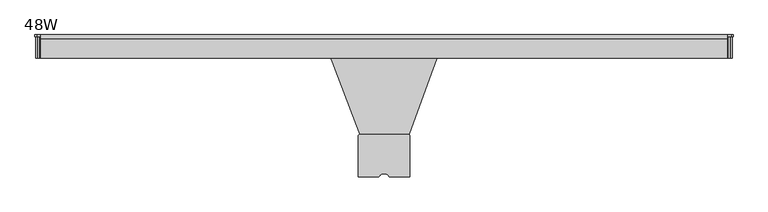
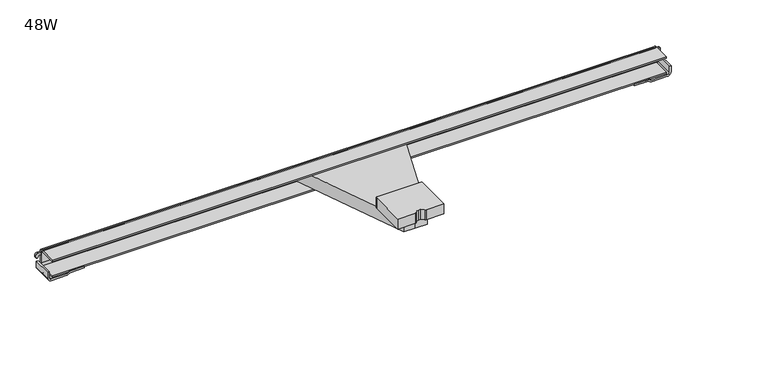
"""IFC4 building model written with IfcOpenShell, lengths in millimetres: furniture geometry, Steelcase Turnstone - Bivi - Accessories - Monitor Arm Table Mount : 48W."""

from ifc_helpers import new_model, si_unit, point, frame, frame_2d, origin, place, context, project, spatial, polyline, circle_curve, trimmed, segment, composite_curve, outline, extrude, source, transform, mapped, element, save


def furniture_48w_f52d431a(model_context):
    return source(origin(), model_context, "Body", "SweptSolid", [
        extrude(outline(composite_curve([segment(trimmed(circle_curve(frame_2d((145.6975492, -269.8839501)), 2.257898), [point((145.6975492, -267.6260521))], [point((147.9554472, -269.8838873))], False, "CARTESIAN"), True, "CONTINUOUS"), segment(polyline([(147.9554472, -269.8838873), (147.9573046, -336.626034), (115.7071375, -336.626034)]), True, "CONTINUOUS"), segment(trimmed(circle_curve(frame_2d((115.7071375, -334.3756531)), 2.2503809), [point((115.7071375, -336.626034))], [point((113.6913493, -335.3760591))], False, "CARTESIAN"), True, "CONTINUOUS"), segment(trimmed(circle_curve(frame_2d((107.6120183, -338.3931418)), 6.7868295), [point((113.6913493, -335.3760591))], [point((108.1291888, -331.6260458))], True, "CARTESIAN"), True, "CONTINUOUS"), segment(trimmed(circle_curve(frame_2d((106.0453771, -358.8923961)), 27.3458613), [point((108.1291888, -331.6260458))], [point((103.9615653, -331.6260458))], True, "CARTESIAN"), True, "CONTINUOUS"), segment(trimmed(circle_curve(frame_2d((104.4791205, -338.3981738)), 6.7918762), [point((103.9615653, -331.6260458))], [point((99.5126263, -333.7653003))], True, "CARTESIAN"), True, "CONTINUOUS"), segment(trimmed(circle_curve(frame_2d((104.4791205, -338.3981738)), 6.7918762), [point((99.5126263, -333.7653003))], [point((98.3973037, -335.3747509))], True, "CARTESIAN"), True, "CONTINUOUS"), segment(trimmed(circle_curve(frame_2d((96.3769126, -334.3703641)), 2.2562741), [point((98.3973037, -335.3747509))], [point((96.429124, -336.626034))], False, "CARTESIAN"), True, "CONTINUOUS"), segment(polyline([(96.429124, -336.626034), (64.1398681, -336.626034), (64.1398681, -269.8377216)]), True, "CONTINUOUS"), segment(trimmed(circle_curve(frame_2d((66.3515376, -269.8377216)), 2.2116695), [point((64.1398681, -269.8377216))], [point((66.3515376, -267.6260521))], False, "CARTESIAN"), True, "CONTINUOUS"), segment(polyline([(66.3515376, -267.6260521), (145.6975492, -267.6260521)]), True, "CONTINUOUS")], self_intersect=False)), frame((0.0, 0.0, 691.6834103), z_axis=(0.0, 0.0, 1.0), x_axis=(1.0, 0.0, 0.0)), (0.0, 0.0, 1.0), 19.3004151),
        extrude(outline(polyline([(128.3372341, -317.6260494), (106.045569, -317.6260494), (86.0600715, -317.6260494), (6.7352254, -107.7199906), (106.045569, -107.7199906), (204.7367915, -107.7199906), (128.3372341, -317.6260494)])), frame((0.0, 0.0, 667.38344), z_axis=(0.0, 0.0, 1.0), x_axis=(1.0, 0.0, 0.0)), (0.0, 0.0, 1.0), 24.2999702),
        extrude(outline(composite_curve([segment(polyline([(674.8332545, -458.0963634), (674.8332545, -461.136431), (663.5926927, -461.136431)]), True, "CONTINUOUS"), segment(trimmed(circle_curve(frame_2d((663.5926927, -454.3769502)), 6.7594808), [point((663.5926927, -461.136431))], [point((656.8332119, -454.3769502))], False, "CARTESIAN"), True, "CONTINUOUS"), segment(polyline([(656.8332119, -454.3769502), (656.8332119, -426.1364852)]), True, "CONTINUOUS"), segment(trimmed(circle_curve(frame_2d((662.9130886, -426.1364852)), 6.0798767), [point((656.8332119, -426.1364852))], [point((658.2556541, -422.2283904))], False, "CARTESIAN"), True, "CONTINUOUS"), segment(trimmed(circle_curve(frame_2d((650.1984046, -415.4674804)), 10.5180405), [point((658.2556541, -422.2283904))], [point((659.8731426, -419.5940551))], True, "CARTESIAN"), True, "CONTINUOUS"), segment(polyline([(659.8731426, -419.5940551), (659.8731426, -394.1940551), (662.9128796, -394.1940551), (662.9128796, -420.4067795)]), True, "CONTINUOUS"), segment(trimmed(circle_curve(frame_2d((658.7545906, -419.9825532)), 4.1798726), [point((662.9128796, -420.4067795))], [point((661.2761093, -423.3162116))], False, "CARTESIAN"), True, "CONTINUOUS"), segment(trimmed(circle_curve(frame_2d((663.4093131, -426.1364852)), 3.5361704), [point((661.2761093, -423.3162116))], [point((659.8731426, -426.1364852))], True, "CARTESIAN"), True, "CONTINUOUS"), segment(polyline([(659.8731426, -426.1364852), (659.8731426, -454.4415467)]), True, "CONTINUOUS"), segment(trimmed(circle_curve(frame_2d((663.5279593, -454.4415467)), 3.6548167), [point((659.8731426, -454.4415467))], [point((663.5279593, -458.0963634))], True, "CARTESIAN"), True, "CONTINUOUS"), segment(polyline([(663.5279593, -458.0963634), (674.8332545, -458.0963634)]), True, "CONTINUOUS")], self_intersect=False)), frame((0.0, -142.9290147, 0.0), z_axis=(0.0, 1.0, 0.0), x_axis=(0.0, 0.0, 1.0)), (0.0, 0.0, 1.0), 35.0600232),
        extrude(outline(composite_curve([segment(polyline([(674.8332545, 670.1875014), (663.5279593, 670.1875014)]), True, "CONTINUOUS"), segment(trimmed(circle_curve(frame_2d((663.5279593, 666.5326846)), 3.6548167), [point((663.5279593, 670.1875014))], [point((659.8731426, 666.5326846))], True, "CARTESIAN"), True, "CONTINUOUS"), segment(polyline([(659.8731426, 666.5326846), (659.8731426, 638.2276231)]), True, "CONTINUOUS"), segment(trimmed(circle_curve(frame_2d((663.4093131, 638.2276231)), 3.5361704), [point((659.8731426, 638.2276231))], [point((661.2761093, 635.4073495))], True, "CARTESIAN"), True, "CONTINUOUS"), segment(trimmed(circle_curve(frame_2d((658.7545906, 632.0736911)), 4.1798726), [point((661.2761093, 635.4073495))], [point((662.9128796, 632.4979175))], False, "CARTESIAN"), True, "CONTINUOUS"), segment(polyline([(662.9128796, 632.4979175), (662.9128796, 606.285193), (659.8731426, 606.285193), (659.8731426, 631.685193)]), True, "CONTINUOUS"), segment(trimmed(circle_curve(frame_2d((650.1984046, 627.5586183)), 10.5180405), [point((659.8731426, 631.685193))], [point((658.2556541, 634.3195283))], True, "CARTESIAN"), True, "CONTINUOUS"), segment(trimmed(circle_curve(frame_2d((662.9130886, 638.2276231)), 6.0798767), [point((658.2556541, 634.3195283))], [point((656.8332119, 638.2276231))], False, "CARTESIAN"), True, "CONTINUOUS"), segment(polyline([(656.8332119, 638.2276231), (656.8332119, 666.4680881)]), True, "CONTINUOUS"), segment(trimmed(circle_curve(frame_2d((663.5926927, 666.4680881)), 6.7594808), [point((656.8332119, 666.4680881))], [point((663.5926927, 673.227569))], False, "CARTESIAN"), True, "CONTINUOUS"), segment(polyline([(663.5926927, 673.227569), (674.8332545, 673.227569), (674.8332545, 670.1875014)]), True, "CONTINUOUS")], self_intersect=False)), frame((0.0, -142.9290147, 0.0), z_axis=(0.0, 1.0, 0.0), x_axis=(0.0, 0.0, 1.0)), (0.0, 0.0, 1.0), 35.0600232),
        extrude(outline(composite_curve([segment(polyline([(689.360073, 671.0776214), (689.360073, 664.7276214), (684.9088679, 664.7276214), (684.9088679, 669.2254318)]), True, "CONTINUOUS"), segment(trimmed(circle_curve(frame_2d((683.9467759, 669.2254318)), 0.962092), [point((684.9088679, 669.2254318))], [point((683.9402076, 670.1875014))], True, "CARTESIAN"), True, "CONTINUOUS"), segment(polyline([(683.9402076, 670.1875014), (682.6846117, 670.1875014)]), True, "CONTINUOUS"), segment(trimmed(circle_curve(frame_2d((682.6846117, 672.2073133)), 2.019812), [point((682.6846117, 670.1875014))], [point((682.6846117, 674.2271253))], False, "CARTESIAN"), True, "CONTINUOUS"), segment(polyline([(682.6846117, 674.2271253), (686.3728817, 674.2271253)]), True, "CONTINUOUS"), segment(trimmed(circle_curve(frame_2d((686.2061594, 671.0776214)), 3.1539136), [point((686.3728817, 674.2271253))], [point((689.360073, 671.0776214))], False, "CARTESIAN"), True, "CONTINUOUS")], self_intersect=False)), frame((0.0, -107.8816597, 0.0), z_axis=(0.0, 1.0, 0.0), x_axis=(0.0, 0.0, 1.0)), (0.0, 0.0, 1.0), 3.0328938),
        extrude(outline(composite_curve([segment(trimmed(circle_curve(frame_2d((686.2061594, -458.9864835)), 3.1539136), [point((689.360073, -458.9864835))], [point((686.3728817, -462.1359874))], False, "CARTESIAN"), True, "CONTINUOUS"), segment(polyline([(686.3728817, -462.1359874), (682.6846117, -462.1359874)]), True, "CONTINUOUS"), segment(trimmed(circle_curve(frame_2d((682.6846117, -460.1161754)), 2.019812), [point((682.6846117, -462.1359874))], [point((682.6846117, -458.0963634))], False, "CARTESIAN"), True, "CONTINUOUS"), segment(polyline([(682.6846117, -458.0963634), (683.9402076, -458.0963634)]), True, "CONTINUOUS"), segment(trimmed(circle_curve(frame_2d((683.9467759, -457.1342939)), 0.962092), [point((683.9402076, -458.0963634))], [point((684.9088679, -457.1342939))], True, "CARTESIAN"), True, "CONTINUOUS"), segment(polyline([(684.9088679, -457.1342939), (684.9088679, -452.6364835), (689.360073, -452.6364835), (689.360073, -458.9864835)]), True, "CONTINUOUS")], self_intersect=False)), frame((0.0, -107.8816597, 0.0), z_axis=(0.0, 1.0, 0.0), x_axis=(0.0, 0.0, 1.0)), (0.0, 0.0, 1.0), 3.0328938),
        extrude(outline(composite_curve([segment(polyline([(-142.9289017, 692.3731344), (-142.9289017, 695.4129307), (-110.7527955, 695.4129307)]), True, "CONTINUOUS"), segment(trimmed(circle_curve(frame_2d((-110.7527955, 689.5089011)), 5.9040296), [point((-110.7527955, 695.4129307))], [point((-104.8487659, 689.5089011))], False, "CARTESIAN"), True, "CONTINUOUS"), segment(polyline([(-104.8487659, 689.5089011), (-104.8487659, 669.2628796)]), True, "CONTINUOUS"), segment(trimmed(circle_curve(frame_2d((-111.1987659, 669.2628796)), 6.35), [point((-104.8487659, 669.2628796))], [point((-111.1987659, 662.9128796))], False, "CARTESIAN"), True, "CONTINUOUS"), segment(polyline([(-111.1987659, 662.9128796), (-142.9289017, 662.9128796), (-142.9289017, 665.7553268), (-111.1222674, 665.7553268)]), True, "CONTINUOUS"), segment(trimmed(circle_curve(frame_2d((-111.1222674, 669.1557803)), 3.4004535), [point((-111.1222674, 665.7553268))], [point((-107.7218139, 669.1557803))], True, "CARTESIAN"), True, "CONTINUOUS"), segment(polyline([(-107.7218139, 669.1557803), (-107.7218139, 688.9768169)]), True, "CONTINUOUS"), segment(trimmed(circle_curve(frame_2d((-111.1181314, 688.9768169)), 3.3963175), [point((-107.7218139, 688.9768169))], [point((-111.1181314, 692.3731344))], True, "CARTESIAN"), True, "CONTINUOUS"), segment(polyline([(-111.1181314, 692.3731344), (-142.9289017, 692.3731344)]), True, "CONTINUOUS")], self_intersect=False)), frame((-452.6368098, 0.0, 0.0), z_axis=(1.0, 0.0, 0.0), x_axis=(0.0, 1.0, 0.0)), (0.0, 0.0, 1.0), 1117.3644312),
    ])


if __name__ == "__main__":
    model = new_model("IFC4")
    model_context = context("Model", 3, world=origin())
    ifc_project = project(units=[si_unit("LENGTHUNIT", "METRE", prefix="MILLI")], contexts=[model_context])
    site = spatial("IfcSite", under=ifc_project)
    building = spatial("IfcBuilding", under=site)
    placement = place(None, origin())
    furniture_48w_shape = furniture_48w_f52d431a(model_context)
    element("IfcFurniture", 1, ObjectType="Steelcase Turnstone - Bivi - Accessories - Monitor Arm Table Mount : 48W", at=placement, inside=building, context=model_context, shape_type="MappedRepresentation", body=[
        mapped(furniture_48w_shape, transform((0.0, 0.0, 0.0), x_axis=(1.0, 0.0, 0.0), y_axis=(0.0, 1.0, 0.0), z_axis=(0.0, 0.0, 1.0))),
    ])
    save(model, "model.ifc")
